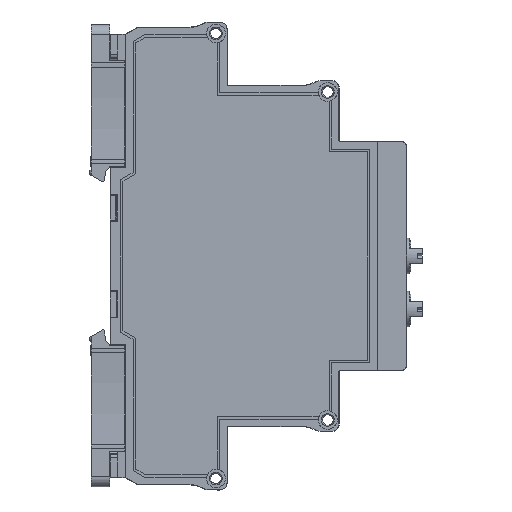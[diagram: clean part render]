
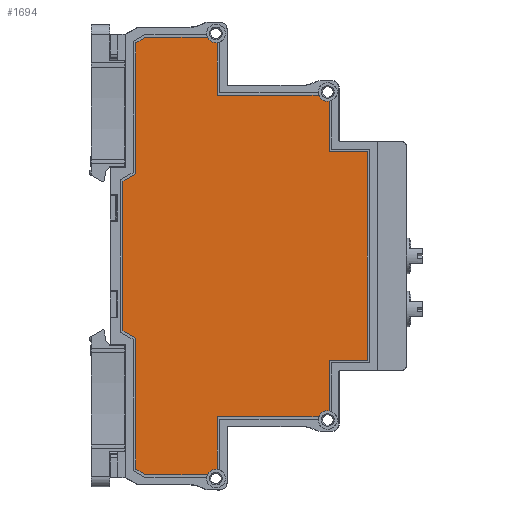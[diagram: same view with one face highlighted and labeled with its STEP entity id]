
A CAD part, front view. The second image highlights one B-rep face of the part: STEP entity #1694.
In plain terms, the highlighted planar face has unit normal (0, -1, 0) as drawn and (1, 0, 0) by its records, which use the part's own axes.
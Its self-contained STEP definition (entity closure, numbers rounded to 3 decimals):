
#1694=ADVANCED_FACE('',(#30631),#30633,.T.);
#30631=FACE_BOUND('',#30632,.T.);
#30632=EDGE_LOOP('',(#54252,#54253,#54254,#54255,#54256,#54257,#54258,#54259,#54260,
#54261,#54262,#54263,#54264,#54265,#54266,#54267,#54268,#54269,#54270,#54271,#54272,
#54273));
#30633=PLANE('',#30634);
#30634=AXIS2_PLACEMENT_3D('',#30635,#30636,#30637);
#30635=CARTESIAN_POINT('',(6.5,0.,0.));
#30636=DIRECTION('',(1.,0.,0.));
#30637=DIRECTION('',(0.,0.,-1.));
#54252=ORIENTED_EDGE('',*,*,#72952,.F.);
#54253=ORIENTED_EDGE('',*,*,#72953,.T.);
#54254=ORIENTED_EDGE('',*,*,#72870,.F.);
#54255=ORIENTED_EDGE('',*,*,#72954,.T.);
#54256=ORIENTED_EDGE('',*,*,#72955,.T.);
#54257=ORIENTED_EDGE('',*,*,#72956,.T.);
#54258=ORIENTED_EDGE('',*,*,#72957,.T.);
#54259=ORIENTED_EDGE('',*,*,#72958,.T.);
#54260=ORIENTED_EDGE('',*,*,#72854,.F.);
#54261=ORIENTED_EDGE('',*,*,#72959,.F.);
#54262=ORIENTED_EDGE('',*,*,#72960,.T.);
#54263=ORIENTED_EDGE('',*,*,#72864,.F.);
#54264=ORIENTED_EDGE('',*,*,#72961,.T.);
#54265=ORIENTED_EDGE('',*,*,#72962,.F.);
#54266=ORIENTED_EDGE('',*,*,#72963,.T.);
#54267=ORIENTED_EDGE('',*,*,#72964,.T.);
#54268=ORIENTED_EDGE('',*,*,#72965,.T.);
#54269=ORIENTED_EDGE('',*,*,#72966,.T.);
#54270=ORIENTED_EDGE('',*,*,#72967,.T.);
#54271=ORIENTED_EDGE('',*,*,#72968,.F.);
#54272=ORIENTED_EDGE('',*,*,#72969,.T.);
#54273=ORIENTED_EDGE('',*,*,#72880,.F.);
#72854=EDGE_CURVE('',#82004,#81989,#82006,.T.);
#72864=EDGE_CURVE('',#82024,#82009,#82026,.T.);
#72870=EDGE_CURVE('',#82036,#82038,#82039,.T.);
#72880=EDGE_CURVE('',#82056,#82058,#82059,.T.);
#72952=EDGE_CURVE('',#82197,#82056,#82198,.T.);
#72953=EDGE_CURVE('',#82197,#82038,#82199,.T.);
#72954=EDGE_CURVE('',#82036,#82200,#82201,.T.);
#72955=EDGE_CURVE('',#82200,#82202,#82203,.T.);
#72956=EDGE_CURVE('',#82202,#82204,#82205,.T.);
#72957=EDGE_CURVE('',#82204,#82206,#82207,.T.);
#72958=EDGE_CURVE('',#82206,#81989,#82208,.T.);
#72959=EDGE_CURVE('',#82209,#82004,#82210,.T.);
#72960=EDGE_CURVE('',#82209,#82009,#82211,.T.);
#72961=EDGE_CURVE('',#82024,#82212,#82213,.T.);
#72962=EDGE_CURVE('',#82214,#82212,#82215,.T.);
#72963=EDGE_CURVE('',#82214,#82216,#82217,.T.);
#72964=EDGE_CURVE('',#82216,#82218,#82219,.T.);
#72965=EDGE_CURVE('',#82218,#82220,#82221,.T.);
#72966=EDGE_CURVE('',#82220,#82222,#82223,.T.);
#72967=EDGE_CURVE('',#82222,#82224,#82225,.T.);
#72968=EDGE_CURVE('',#82226,#82224,#82227,.T.);
#72969=EDGE_CURVE('',#82226,#82058,#82228,.T.);
#81989=VERTEX_POINT('',#97796);
#82004=VERTEX_POINT('',#97829);
#82006=CIRCLE('',#97833,1.85);
#82009=VERTEX_POINT('',#97842);
#82024=VERTEX_POINT('',#97875);
#82026=CIRCLE('',#97879,1.85);
#82036=VERTEX_POINT('',#97903);
#82038=VERTEX_POINT('',#97907);
#82039=CIRCLE('',#97908,1.85);
#82056=VERTEX_POINT('',#97949);
#82058=VERTEX_POINT('',#97953);
#82059=CIRCLE('',#97954,1.85);
#82197=VERTEX_POINT('',#98258);
#82198=LINE('',#98259,#98260);
#82199=LINE('',#98262,#98263);
#82200=VERTEX_POINT('',#98265);
#82201=LINE('',#98266,#98267);
#82202=VERTEX_POINT('',#98269);
#82203=LINE('',#98270,#98271);
#82204=VERTEX_POINT('',#98273);
#82205=LINE('',#98274,#98275);
#82206=VERTEX_POINT('',#98277);
#82207=LINE('',#98278,#98279);
#82208=LINE('',#98281,#98282);
#82209=VERTEX_POINT('',#98284);
#82210=LINE('',#98285,#98286);
#82211=LINE('',#98288,#98289);
#82212=VERTEX_POINT('',#98291);
#82213=LINE('',#98292,#98293);
#82214=VERTEX_POINT('',#98295);
#82215=LINE('',#98296,#98297);
#82216=VERTEX_POINT('',#98299);
#82217=LINE('',#98300,#98301);
#82218=VERTEX_POINT('',#98303);
#82219=LINE('',#98304,#98305);
#82220=VERTEX_POINT('',#98307);
#82221=LINE('',#98308,#98309);
#82222=VERTEX_POINT('',#98311);
#82223=LINE('',#98312,#98313);
#82224=VERTEX_POINT('',#98315);
#82225=LINE('',#98316,#98317);
#82226=VERTEX_POINT('',#98319);
#82227=LINE('',#98320,#98321);
#82228=LINE('',#98323,#98324);
#97796=CARTESIAN_POINT('',(6.5,-30.541,38.985));
#97829=CARTESIAN_POINT('',(6.5,-31.7,37.015));
#97833=AXIS2_PLACEMENT_3D('',#97834,#97835,#97836);
#97834=CARTESIAN_POINT('',(6.5,-32.375,38.738));
#97835=DIRECTION('',(1.,0.,0.));
#97836=DIRECTION('',(0.,0.365,-0.931));
#97842=CARTESIAN_POINT('',(6.5,-42.103,16.897));
#97875=CARTESIAN_POINT('',(6.5,-43.2,14.953));
#97879=AXIS2_PLACEMENT_3D('',#97880,#97881,#97882);
#97880=CARTESIAN_POINT('',(6.5,-43.937,16.65));
#97881=DIRECTION('',(1.,0.,0.));
#97882=DIRECTION('',(0.,0.398,-0.917));
#97903=CARTESIAN_POINT('',(6.5,30.541,38.985));
#97907=CARTESIAN_POINT('',(6.5,31.7,37.015));
#97908=AXIS2_PLACEMENT_3D('',#97909,#97910,#97911);
#97909=CARTESIAN_POINT('',(6.5,32.375,38.738));
#97910=DIRECTION('',(1.,0.,0.));
#97911=DIRECTION('',(0.,-0.991,0.134));
#97949=CARTESIAN_POINT('',(6.5,42.103,16.897));
#97953=CARTESIAN_POINT('',(6.5,43.2,14.953));
#97954=AXIS2_PLACEMENT_3D('',#97955,#97956,#97957);
#97955=CARTESIAN_POINT('',(6.5,43.937,16.65));
#97956=DIRECTION('',(1.,0.,0.));
#97957=DIRECTION('',(0.,-0.991,0.134));
#98258=CARTESIAN_POINT('',(6.5,31.7,16.897));
#98259=CARTESIAN_POINT('',(6.5,31.7,16.897));
#98260=VECTOR('',#98261,1.);
#98261=DIRECTION('',(0.,1.,0.));
#98262=CARTESIAN_POINT('',(6.5,31.7,16.897));
#98263=VECTOR('',#98264,1.);
#98264=DIRECTION('',(0.,0.,1.));
#98265=CARTESIAN_POINT('',(6.5,20.6,38.985));
#98266=CARTESIAN_POINT('',(6.5,30.541,38.985));
#98267=VECTOR('',#98268,1.);
#98268=DIRECTION('',(0.,-1.,0.));
#98269=CARTESIAN_POINT('',(6.5,20.6,46.53));
#98270=CARTESIAN_POINT('',(6.5,20.6,38.985));
#98271=VECTOR('',#98272,1.);
#98272=DIRECTION('',(0.,0.,1.));
#98273=CARTESIAN_POINT('',(6.5,-20.6,46.53));
#98274=CARTESIAN_POINT('',(6.5,20.6,46.53));
#98275=VECTOR('',#98276,1.);
#98276=DIRECTION('',(0.,-1.,0.));
#98277=CARTESIAN_POINT('',(6.5,-20.6,38.985));
#98278=CARTESIAN_POINT('',(6.5,-20.6,46.53));
#98279=VECTOR('',#98280,1.);
#98280=DIRECTION('',(0.,0.,-1.));
#98281=CARTESIAN_POINT('',(6.5,-20.6,38.985));
#98282=VECTOR('',#98283,1.);
#98283=DIRECTION('',(0.,-1.,0.));
#98284=CARTESIAN_POINT('',(6.5,-31.7,16.897));
#98285=CARTESIAN_POINT('',(6.5,-31.7,16.897));
#98286=VECTOR('',#98287,1.);
#98287=DIRECTION('',(0.,0.,1.));
#98288=CARTESIAN_POINT('',(6.5,-31.7,16.897));
#98289=VECTOR('',#98290,1.);
#98290=DIRECTION('',(0.,-1.,0.));
#98291=CARTESIAN_POINT('',(6.5,-43.2,2.761));
#98292=CARTESIAN_POINT('',(6.5,-43.2,14.953));
#98293=VECTOR('',#98294,1.);
#98294=DIRECTION('',(0.,0.,-1.));
#98295=CARTESIAN_POINT('',(6.5,-42.068,0.8));
#98296=CARTESIAN_POINT('',(6.5,-42.068,0.8));
#98297=VECTOR('',#98298,1.);
#98298=DIRECTION('',(0.,-0.5,0.866));
#98299=CARTESIAN_POINT('',(6.5,-16.211,0.8));
#98300=CARTESIAN_POINT('',(6.5,-42.068,0.8));
#98301=VECTOR('',#98302,1.);
#98302=DIRECTION('',(0.,1.,0.));
#98303=CARTESIAN_POINT('',(6.5,-14.768,-1.7));
#98304=CARTESIAN_POINT('',(6.5,-16.211,0.8));
#98305=VECTOR('',#98306,1.);
#98306=DIRECTION('',(0.,0.5,-0.866));
#98307=CARTESIAN_POINT('',(6.5,14.768,-1.7));
#98308=CARTESIAN_POINT('',(6.5,-14.768,-1.7));
#98309=VECTOR('',#98310,1.);
#98310=DIRECTION('',(0.,1.,0.));
#98311=CARTESIAN_POINT('',(6.5,16.211,0.8));
#98312=CARTESIAN_POINT('',(6.5,14.768,-1.7));
#98313=VECTOR('',#98314,1.);
#98314=DIRECTION('',(0.,0.5,0.866));
#98315=CARTESIAN_POINT('',(6.5,42.068,0.8));
#98316=CARTESIAN_POINT('',(6.5,16.211,0.8));
#98317=VECTOR('',#98318,1.);
#98318=DIRECTION('',(0.,1.,0.));
#98319=CARTESIAN_POINT('',(6.5,43.2,2.761));
#98320=CARTESIAN_POINT('',(6.5,43.2,2.761));
#98321=VECTOR('',#98322,1.);
#98322=DIRECTION('',(0.,-0.5,-0.866));
#98323=CARTESIAN_POINT('',(6.5,43.2,2.761));
#98324=VECTOR('',#98325,1.);
#98325=DIRECTION('',(0.,0.,1.));
